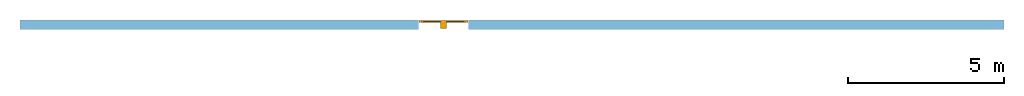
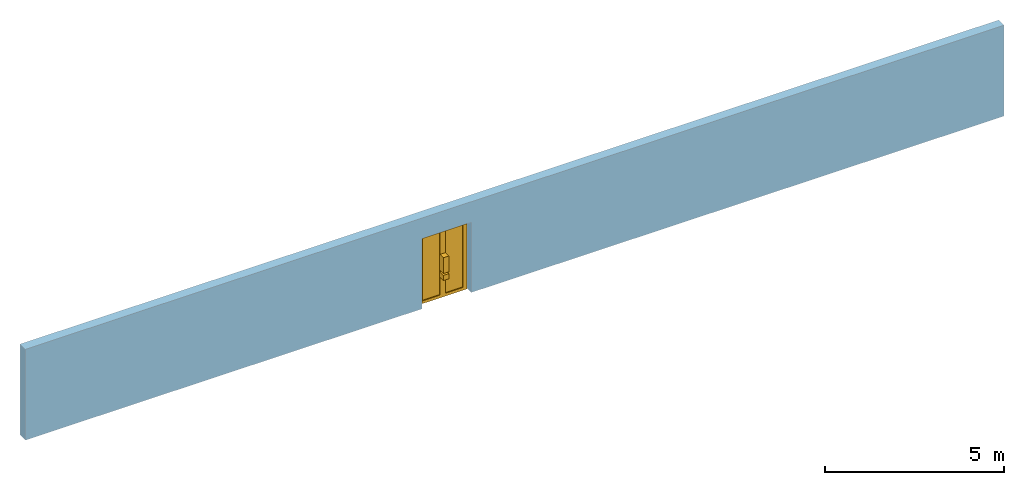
# One storey, part 2 of 2: 1 window, 1 opening, plus 1 element that does not belong to this part.
"""IFC2X3 building model written with IfcOpenShell, lengths in metres."""

from ifc_helpers import new_model, entity, si_unit, converted_unit, derived_unit, direction, frame, frame_2d, origin, place, context, subcontext, project, spatial, rectangle, extrude, faceted_brep, source, transform, mapped, material, material_list, layer, layer_set, layer_usage, type_object, type_shapes, element, fill, save


model = new_model("IFC2X3")

# Units and contexts
model_context = context("Model", 3, precision=1e-05, world=origin(), true_north=direction((6.12303176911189e-17, 1.0)))
body_context = subcontext(model_context, "Body", "Model", "MODEL_VIEW")
ifc_project = project(units=[si_unit("LENGTHUNIT", "METRE"), si_unit("AREAUNIT", "SQUARE_METRE"), si_unit("VOLUMEUNIT", "CUBIC_METRE"), converted_unit("PLANEANGLEUNIT", "DEGREE", entity("IfcRatioMeasure", 0.0174532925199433), si_unit("PLANEANGLEUNIT", "RADIAN"), dimensions=[0, 0, 0, 0, 0, 0, 0]), si_unit("MASSUNIT", "GRAM", prefix="KILO"), derived_unit("MASSDENSITYUNIT", [(si_unit("MASSUNIT", "GRAM", prefix="KILO"), 1), (si_unit("LENGTHUNIT", "METRE"), -3)]), si_unit("TIMEUNIT", "SECOND"), si_unit("FREQUENCYUNIT", "HERTZ"), si_unit("THERMODYNAMICTEMPERATUREUNIT", "DEGREE_CELSIUS"), derived_unit("THERMALTRANSMITTANCEUNIT", [(si_unit("MASSUNIT", "GRAM", prefix="KILO"), 1), (si_unit("THERMODYNAMICTEMPERATUREUNIT", "KELVIN"), -1), (si_unit("TIMEUNIT", "SECOND"), -3)]), derived_unit("VOLUMETRICFLOWRATEUNIT", [(si_unit("LENGTHUNIT", "METRE"), 3), (si_unit("TIMEUNIT", "SECOND"), -1)]), si_unit("ELECTRICCURRENTUNIT", "AMPERE"), si_unit("ELECTRICVOLTAGEUNIT", "VOLT"), si_unit("POWERUNIT", "WATT"), si_unit("FORCEUNIT", "NEWTON", prefix="KILO"), si_unit("ILLUMINANCEUNIT", "LUX"), si_unit("LUMINOUSFLUXUNIT", "LUMEN"), si_unit("LUMINOUSINTENSITYUNIT", "CANDELA"), derived_unit("USERDEFINED", [(si_unit("MASSUNIT", "GRAM", prefix="KILO"), -1), (si_unit("LENGTHUNIT", "METRE"), -2), (si_unit("TIMEUNIT", "SECOND"), 3), (si_unit("LUMINOUSFLUXUNIT", "LUMEN"), 1)]), derived_unit("LINEARVELOCITYUNIT", [(si_unit("LENGTHUNIT", "METRE"), 1), (si_unit("TIMEUNIT", "SECOND"), -1)]), si_unit("PRESSUREUNIT", "PASCAL"), derived_unit("USERDEFINED", [(si_unit("LENGTHUNIT", "METRE"), -2), (si_unit("MASSUNIT", "GRAM", prefix="KILO"), 1), (si_unit("TIMEUNIT", "SECOND"), -2)])], contexts=[model_context])

# Site, building, storey
site_placement = place(None, origin())
site = spatial("IfcSite", under=ifc_project, at=site_placement, Name="Default", CompositionType="ELEMENT")
building_placement = place(site_placement, origin())
building = spatial("IfcBuilding", under=site, at=building_placement, CompositionType="ELEMENT")
storey_placement = place(building_placement, origin())
storey = spatial("IfcBuildingStorey", under=building, at=storey_placement, Name="0 - Piano Terra", CompositionType="ELEMENT", Elevation=0.0)

# Wall, opening, window
ifc_material_1 = material(Name="Default - Muro")
ifc_layer = layer(ifc_material_1, 0.3)
ifc_layer_set = layer_set([ifc_layer], Name="Muro di base:Generico - 30 cm")
ifc_layer_usage = layer_usage(ifc_layer_set, "AXIS2", "NEGATIVE", 0.15)
wall_type = type_object("IfcWallType", Name="Muro di base:Generico - 30 cm", PredefinedType="STANDARD", material=ifc_layer_set)
wall_placement = place(storey_placement, frame((-16.3844734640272, -0.365587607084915, 0.0)))
wall = element("IfcWallStandardCase", 1, at=wall_placement, inside=storey, type_object=wall_type, material=ifc_layer_usage, Name="Muro di base:Generico - 30 cm", ObjectType="Muro di base:Generico - 30 cm:952", context=body_context, shape_type="SweptSolid", body=[
    extrude(rectangle(XDim=31.6, YDim=0.3, at=frame_2d((15.8, -2.77555756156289e-17), x_axis=(-1.0, 0.0))), origin(), (0.0, 0.0, 1.0), 3.1),
])
opening_placement = place(wall_placement, frame((12.8, -0.150000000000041, 0.0)))
opening = element("IfcOpeningElement", 2, at=opening_placement, cuts=wall, Name="BIM_AluK_D77_2 ante apertura interna:BIM_AluK_D77_2 ante apertura interna:1", ObjectType="Opening", context=body_context, shape_type="SweptSolid", body=[
    extrude(rectangle(XDim=2.39999999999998, YDim=1.6, at=frame_2d((1.19999999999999, 0.799999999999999), x_axis=(1.0, 0.0))), frame((0.0, 0.0, 0.0), z_axis=(0.0, 1.0, 0.0), x_axis=(0.0, 0.0, 1.0)), (0.0, 0.0, 1.0), 0.3),
])
ifc_material_2 = material(Name="Simboli")
ifc_material_3 = material(Name="Aluk (IT)")
ifc_material_4 = material(Name="Vetro")
ifc_material_list_1 = material_list([ifc_material_2, ifc_material_3, ifc_material_4])
ifc_material_list_2 = material_list([ifc_material_2, ifc_material_3, ifc_material_4])
window_style = type_object("IfcWindowStyle", Name="BIM_AluK_D77_2 ante apertura interna", ConstructionType="NOTDEFINED", OperationType="NOTDEFINED", ParameterTakesPrecedence=False, Sizeable=False, material=ifc_material_list_2)
shared_shape = source(origin(), body_context, "Body", "Brep", [
    faceted_brep([(0.889999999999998, 0.0199999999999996, 0.94399999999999), (0.889999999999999, 0.0199999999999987, 1.48399999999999), (0.709999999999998, 0.0199999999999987, 1.48399999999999), (0.709999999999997, 0.0199999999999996, 0.943999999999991), (0.889999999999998, 0.27, 0.943999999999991), (0.709999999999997, 0.27, 0.943999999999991), (0.709999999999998, 0.269999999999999, 1.48399999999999), (0.889999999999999, 0.269999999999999, 1.48399999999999)], [[[0, 1, 2, 3]], [[4, 5, 6, 7]], [[1, 0, 4, 7]], [[2, 1, 7, 6]], [[3, 2, 6, 5]], [[0, 3, 5, 4]]]),
    faceted_brep([(0.889999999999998, 0.02, 0.703999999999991), (0.889999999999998, 0.0199999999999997, 0.883999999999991), (0.709999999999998, 0.0199999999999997, 0.883999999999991), (0.709999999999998, 0.02, 0.703999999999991), (0.889999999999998, 0.27, 0.703999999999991), (0.709999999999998, 0.27, 0.703999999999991), (0.709999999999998, 0.27, 0.883999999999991), (0.889999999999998, 0.27, 0.883999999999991)], [[[0, 1, 2, 3]], [[4, 5, 6, 7]], [[1, 0, 4, 7]], [[2, 1, 7, 6]], [[3, 2, 6, 5]], [[0, 3, 5, 4]]]),
    faceted_brep([(0.13899997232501, 0.272000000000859, 2.26100002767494), (0.138999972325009, 0.24048000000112, 2.26100002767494), (0.138999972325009, 0.24048000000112, 0.0819999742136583), (0.13899997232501, 0.272000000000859, 0.0819999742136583), (0.152998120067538, 0.240480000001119, 0.095998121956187), (0.713501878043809, 0.240480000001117, 0.095998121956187), (0.713501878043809, 0.240480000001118, 2.24700187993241), (0.152998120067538, 0.24048000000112, 2.24700187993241), (0.727500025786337, 0.240480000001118, 2.26100002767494), (0.727500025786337, 0.240480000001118, 0.0819999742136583), (0.727500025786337, 0.272000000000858, 0.0819999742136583), (0.727500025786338, 0.272000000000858, 2.26100002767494), (0.15299999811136, 0.272000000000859, 2.24700000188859), (0.713499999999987, 0.272000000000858, 2.24700000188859), (0.713499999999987, 0.272000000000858, 0.0960000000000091), (0.15299999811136, 0.272000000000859, 0.0960000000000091), (0.15299999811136, 0.280000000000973, 2.24700000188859), (0.15299999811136, 0.280000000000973, 0.096000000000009), (0.713499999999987, 0.280000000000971, 0.096000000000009), (0.713499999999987, 0.280000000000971, 2.24700000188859), (0.0819999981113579, 0.280000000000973, 2.31800000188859), (0.784499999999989, 0.280000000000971, 2.31800000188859), (0.784499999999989, 0.280000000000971, 0.0250000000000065), (0.0819999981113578, 0.280000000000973, 0.0250000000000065), (0.0819999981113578, 0.271250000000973, 2.31800000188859), (0.0819999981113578, 0.271250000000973, 0.0250000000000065), (0.784499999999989, 0.271250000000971, 0.0250000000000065), (0.784499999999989, 0.271250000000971, 2.31800000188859), (0.0754999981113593, 0.271250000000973, 2.32450000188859), (0.790999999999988, 0.271250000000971, 2.32450000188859), (0.790999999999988, 0.271250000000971, 0.0185000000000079), (0.0754999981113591, 0.271250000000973, 0.0185000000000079), (0.075499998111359, 0.217499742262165, 2.32450000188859), (0.0754999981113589, 0.217499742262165, 0.018500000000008), (0.790999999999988, 0.217499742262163, 0.0185000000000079), (0.790999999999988, 0.217499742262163, 2.32450000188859), (0.0569999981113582, 0.217499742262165, 2.34300000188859), (0.809499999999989, 0.217499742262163, 2.34300000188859), (0.809499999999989, 0.217499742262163, 0.0), (0.0569999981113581, 0.217499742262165, 0.0), (0.0569999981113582, 0.213000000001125, 2.34300000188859), (0.0569999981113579, 0.213000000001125, 0.0), (0.809499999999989, 0.213000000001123, 0.0), (0.809499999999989, 0.213000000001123, 2.34300000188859), (0.152998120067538, 0.213000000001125, 2.24700187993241), (0.713501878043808, 0.213000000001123, 2.24700187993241), (0.713501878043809, 0.213000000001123, 0.0959981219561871), (0.152998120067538, 0.213000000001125, 0.0959981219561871)], [[[0, 1, 2, 3]], [[4, 5, 6, 7], [1, 8, 9, 2]], [[3, 2, 9, 10]], [[3, 10, 11, 0], [12, 13, 14, 15]], [[16, 12, 15, 17]], [[17, 15, 14, 18]], [[17, 18, 19, 16], [20, 21, 22, 23]], [[24, 20, 23, 25]], [[25, 23, 22, 26]], [[25, 26, 27, 24], [28, 29, 30, 31]], [[32, 28, 31, 33]], [[33, 31, 30, 34]], [[33, 34, 35, 32], [36, 37, 38, 39]], [[40, 36, 39, 41]], [[41, 39, 38, 42]], [[41, 42, 43, 40], [44, 45, 46, 47]], [[7, 44, 47, 4]], [[4, 47, 46, 5]], [[10, 9, 8, 11]], [[18, 14, 13, 19]], [[26, 22, 21, 27]], [[34, 30, 29, 35]], [[42, 38, 37, 43]], [[5, 46, 45, 6]], [[27, 21, 20, 24]], [[35, 29, 28, 32]], [[43, 37, 36, 40]], [[11, 8, 1, 0]], [[19, 13, 12, 16]], [[6, 45, 44, 7]]], outer=[[True], [False, True], [True], [True, False], [True], [True], [False, True], [True], [True], [False, True], [True], [True], [False, True], [True], [True], [True, False], [True], [True], [True], [True], [True], [True], [True], [True], [True], [True], [True], [True], [True], [True]]),
    faceted_brep([(0.886500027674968, 0.28000000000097, 0.0960000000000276), (0.886500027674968, 0.28000000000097, 0.0250000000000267), (0.886500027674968, 0.27125000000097, 0.0250000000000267), (0.886500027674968, 0.27125000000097, 0.018500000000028), (0.886500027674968, 0.217499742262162, 0.018500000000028), (0.886500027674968, 0.217499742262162, 0.0), (0.886500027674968, 0.213000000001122, 0.0), (0.886500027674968, 0.213000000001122, 0.0959981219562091), (0.886500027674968, 0.240480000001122, 0.0959981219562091), (0.886500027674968, 0.240480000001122, 0.0819999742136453), (0.886500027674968, 0.27550000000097, 0.0819999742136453), (0.886500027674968, 0.27550000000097, 0.0960000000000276), (1.44700000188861, 0.280000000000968, 0.0960000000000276), (1.44700000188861, 0.280000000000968, 2.24700000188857), (0.886500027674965, 0.28000000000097, 2.24700000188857), (0.886500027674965, 0.28000000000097, 2.31800000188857), (1.51800000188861, 0.280000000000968, 2.31800000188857), (1.51800000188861, 0.280000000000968, 0.0250000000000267), (1.51800000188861, 0.271250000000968, 0.0250000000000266), (1.51800000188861, 0.271250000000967, 2.31800000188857), (0.886500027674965, 0.271250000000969, 2.31800000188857), (0.886500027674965, 0.271250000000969, 2.32450000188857), (1.5245000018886, 0.271250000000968, 2.32450000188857), (1.52450000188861, 0.271250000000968, 0.018500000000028), (1.5245000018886, 0.21749974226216, 0.018500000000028), (1.5245000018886, 0.217499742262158, 2.32450000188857), (0.886500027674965, 0.217499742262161, 2.32450000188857), (0.886500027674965, 0.217499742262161, 2.34300000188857), (1.54300000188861, 0.21749974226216, 2.34300000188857), (1.54300000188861, 0.21749974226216, 0.0), (1.54300000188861, 0.21300000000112, 0.0), (1.54300000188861, 0.21300000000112, 2.34300000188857), (0.886500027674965, 0.213000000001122, 2.34300000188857), (0.886500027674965, 0.213000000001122, 2.24700187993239), (1.44700187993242, 0.21300000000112, 2.24700187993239), (1.44700187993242, 0.21300000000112, 0.0959981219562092), (1.44700187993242, 0.24048000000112, 0.0959981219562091), (1.44700187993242, 0.240480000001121, 2.24700187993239), (0.886500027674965, 0.240480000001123, 2.24700187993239), (0.886500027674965, 0.240480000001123, 2.26100002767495), (1.46100002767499, 0.24048000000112, 2.26100002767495), (1.46100002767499, 0.24048000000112, 0.0819999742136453), (1.46100002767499, 0.275500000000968, 0.0819999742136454), (1.46100002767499, 0.275500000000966, 2.26100002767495), (0.886500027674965, 0.275500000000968, 2.26100002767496), (0.886500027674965, 0.275500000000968, 2.24700000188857), (1.44700000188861, 0.275500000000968, 2.24700000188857), (1.44700000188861, 0.275500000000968, 0.0960000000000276)], [[[0, 1, 2, 3, 4, 5, 6, 7, 8, 9, 10, 11]], [[1, 0, 12, 13, 14, 15, 16, 17]], [[2, 1, 17, 18]], [[3, 2, 18, 19, 20, 21, 22, 23]], [[4, 3, 23, 24]], [[5, 4, 24, 25, 26, 27, 28, 29]], [[6, 5, 29, 30]], [[7, 6, 30, 31, 32, 33, 34, 35]], [[8, 7, 35, 36]], [[9, 8, 36, 37, 38, 39, 40, 41]], [[10, 9, 41, 42]], [[11, 10, 42, 43, 44, 45, 46, 47]], [[0, 11, 47, 12]], [[12, 47, 46, 13]], [[18, 17, 16, 19]], [[24, 23, 22, 25]], [[30, 29, 28, 31]], [[36, 35, 34, 37]], [[42, 41, 40, 43]], [[14, 45, 44, 39, 38, 33, 32, 27, 26, 21, 20, 15]], [[19, 16, 15, 20]], [[25, 22, 21, 26]], [[31, 28, 27, 32]], [[37, 34, 33, 38]], [[43, 40, 39, 44]], [[13, 46, 45, 14]]]),
    faceted_brep([(1.52399827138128, 0.280000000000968, 0.0), (1.58999999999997, 0.280000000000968, 0.0), (1.58999999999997, 0.213000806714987, 0.0), (1.54899999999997, 0.213000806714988, 0.0), (1.54899999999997, 0.221750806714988, 0.0), (1.5425099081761, 0.221750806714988, 0.0), (1.5425099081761, 0.275501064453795, 0.0), (1.52399827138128, 0.275501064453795, 0.0), (1.52399827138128, 0.280000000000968, 2.32399827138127), (0.0760017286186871, 0.280000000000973, 2.32399827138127), (0.0760017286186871, 0.280000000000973, 0.0), (0.00999999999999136, 0.280000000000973, 0.0), (0.00999999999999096, 0.280000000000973, 2.38999999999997), (1.58999999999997, 0.280000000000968, 2.38999999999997), (1.58999999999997, 0.213000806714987, 2.38999999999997), (0.00999999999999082, 0.213000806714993, 2.38999999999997), (0.00999999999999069, 0.213000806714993, 0.0), (0.0509999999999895, 0.213000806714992, 0.0), (0.0509999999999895, 0.213000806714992, 2.34899999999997), (1.54899999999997, 0.213000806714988, 2.34899999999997), (1.54899999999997, 0.221750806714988, 2.34899999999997), (0.05099999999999, 0.221750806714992, 2.34899999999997), (0.0509999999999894, 0.221750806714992, 0.0), (0.0574900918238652, 0.221750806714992, 0.0), (0.0574900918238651, 0.221750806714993, 2.3425099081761), (1.5425099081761, 0.221750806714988, 2.3425099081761), (1.5425099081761, 0.275501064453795, 2.3425099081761), (0.0574900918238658, 0.275501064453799, 2.3425099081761), (0.0574900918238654, 0.275501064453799, 0.0), (0.0760017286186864, 0.275501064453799, 0.0), (0.076001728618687, 0.2755010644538, 2.32399827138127), (1.52399827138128, 0.275501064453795, 2.32399827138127)], [[[0, 1, 2, 3, 4, 5, 6, 7]], [[1, 0, 8, 9, 10, 11, 12, 13]], [[2, 1, 13, 14]], [[3, 2, 14, 15, 16, 17, 18, 19]], [[4, 3, 19, 20]], [[5, 4, 20, 21, 22, 23, 24, 25]], [[6, 5, 25, 26]], [[7, 6, 26, 27, 28, 29, 30, 31]], [[0, 7, 31, 8]], [[9, 30, 29, 10]], [[10, 29, 28, 23, 22, 17, 16, 11]], [[15, 12, 11, 16]], [[21, 18, 17, 22]], [[27, 24, 23, 28]], [[8, 31, 30, 9]], [[14, 13, 12, 15]], [[20, 19, 18, 21]], [[26, 25, 24, 27]]]),
    faceted_brep([(0.886498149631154, 0.24048000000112, 0.0), (0.886498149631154, 0.213000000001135, 0.0), (0.8155, 0.213000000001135, 0.0), (0.8155, 0.221749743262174, 0.0), (0.809000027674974, 0.221749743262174, 0.0), (0.809000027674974, 0.248499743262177, 0.0), (0.872500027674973, 0.248499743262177, 0.0), (0.872500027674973, 0.24048000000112, 0.0), (0.886498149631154, 0.24048000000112, 2.3430000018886), (0.886498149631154, 0.213000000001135, 2.3430000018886), (0.8155, 0.213000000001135, 2.3430000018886), (0.8155, 0.221749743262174, 2.3430000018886), (0.809000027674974, 0.221749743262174, 2.3430000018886), (0.809000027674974, 0.248499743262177, 2.3430000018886), (0.872500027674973, 0.248499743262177, 2.3430000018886), (0.872500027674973, 0.24048000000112, 2.3430000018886)], [[[0, 1, 2, 3, 4, 5, 6, 7]], [[8, 9, 1, 0]], [[9, 10, 2, 1]], [[10, 11, 3, 2]], [[11, 12, 4, 3]], [[12, 13, 5, 4]], [[13, 14, 6, 5]], [[14, 15, 7, 6]], [[15, 8, 0, 7]], [[8, 15, 14, 13, 12, 11, 10, 9]]]),
    faceted_brep([(0.886500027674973, 0.280000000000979, 0.0249999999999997), (0.886500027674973, 0.275500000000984, 0.0249999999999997), (0.861500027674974, 0.275500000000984, 0.0249999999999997), (0.861500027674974, 0.255449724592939, 0.0249999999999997), (0.809009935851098, 0.255449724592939, 0.0249999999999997), (0.809009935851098, 0.275500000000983, 0.0249999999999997), (0.790500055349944, 0.275500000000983, 0.0249999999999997), (0.790500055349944, 0.280000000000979, 0.0249999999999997), (0.886500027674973, 0.280000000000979, 2.31800005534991), (0.886500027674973, 0.275500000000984, 2.31800005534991), (0.861500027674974, 0.275500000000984, 2.31800005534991), (0.861500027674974, 0.255449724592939, 2.31800005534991), (0.809009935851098, 0.255449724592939, 2.31800005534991), (0.809009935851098, 0.275500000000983, 2.31800005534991), (0.790500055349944, 0.275500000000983, 2.31800005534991), (0.790500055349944, 0.280000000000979, 2.31800005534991)], [[[0, 1, 2, 3, 4, 5, 6, 7]], [[8, 9, 1, 0]], [[9, 10, 2, 1]], [[10, 11, 3, 2]], [[11, 12, 4, 3]], [[12, 13, 5, 4]], [[13, 14, 6, 5]], [[14, 15, 7, 6]], [[15, 8, 0, 7]], [[8, 15, 14, 13, 12, 11, 10, 9]]]),
    faceted_brep([(0.138999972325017, 0.24724000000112, 0.090000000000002), (0.7275, 0.24724000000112, 0.090000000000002), (0.7275, 0.24048000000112, 0.090000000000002), (0.138999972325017, 0.24048000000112, 0.090000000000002), (0.138999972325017, 0.24724000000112, 2.26100003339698), (0.7275, 0.24724000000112, 2.26100003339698), (0.7275, 0.24048000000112, 2.26100003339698), (0.138999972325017, 0.24048000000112, 2.26100003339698)], [[[0, 1, 2, 3]], [[4, 5, 1, 0]], [[5, 6, 2, 1]], [[6, 7, 3, 2]], [[7, 4, 0, 3]], [[4, 7, 6, 5]]]),
    faceted_brep([(0.7275, 0.272000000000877, 2.26100003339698), (0.7275, 0.263240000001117, 2.26100003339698), (0.7275, 0.263240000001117, 0.090000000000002), (0.7275, 0.272000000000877, 0.090000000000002), (0.138999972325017, 0.263240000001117, 2.26100003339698), (0.138999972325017, 0.263240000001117, 0.090000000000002), (0.138999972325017, 0.272000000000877, 2.26100003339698), (0.138999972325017, 0.272000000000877, 0.090000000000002)], [[[0, 1, 2, 3]], [[1, 4, 5, 2]], [[4, 6, 7, 5]], [[6, 0, 3, 7]], [[0, 6, 4, 1]], [[3, 2, 5, 7]]]),
    faceted_brep([(1.46100000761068, 0.272000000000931, 2.26100003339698), (1.46100000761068, 0.263240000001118, 2.26100003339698), (1.46100000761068, 0.263240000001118, 0.090000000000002), (1.46100000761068, 0.272000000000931, 0.090000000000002), (0.872500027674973, 0.263240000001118, 2.26100003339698), (0.872500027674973, 0.263240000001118, 0.090000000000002), (0.872500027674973, 0.272000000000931, 2.26100003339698), (0.872500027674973, 0.272000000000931, 0.090000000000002)], [[[0, 1, 2, 3]], [[1, 4, 5, 2]], [[4, 6, 7, 5]], [[6, 0, 3, 7]], [[0, 6, 4, 1]], [[3, 2, 5, 7]]]),
    faceted_brep([(0.872500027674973, 0.24724000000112, 2.26100003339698), (1.46100000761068, 0.24724000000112, 2.26100003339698), (1.46100000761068, 0.24724000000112, 0.090000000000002), (0.872500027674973, 0.24724000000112, 0.090000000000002), (1.46100000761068, 0.240480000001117, 2.26100003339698), (1.46100000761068, 0.240480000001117, 0.090000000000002), (0.872500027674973, 0.240480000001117, 2.26100003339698), (0.872500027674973, 0.240480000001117, 0.090000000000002)], [[[0, 1, 2, 3]], [[1, 4, 5, 2]], [[4, 6, 7, 5]], [[6, 0, 3, 7]], [[0, 6, 4, 1]], [[3, 2, 5, 7]]]),
])
type_shapes(window_style, [shared_shape])
window_placement = place(opening_placement, origin())
window = element("IfcWindow", 3, at=window_placement, inside=storey, type_object=window_style, material=ifc_material_list_1, Name="BIM_AluK_D77_2 ante apertura interna:BIM_AluK_D77_2 ante apertura interna", ObjectType="BIM_AluK_D77_2 ante apertura interna", OverallHeight=2.39999999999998, OverallWidth=1.6, context=body_context, shape_type="MappedRepresentation", body=[
    mapped(shared_shape, transform((0.0, 0.0, 0.0), scale=1.0)),
])
fill(opening, window)

save(model, "model.ifc")
